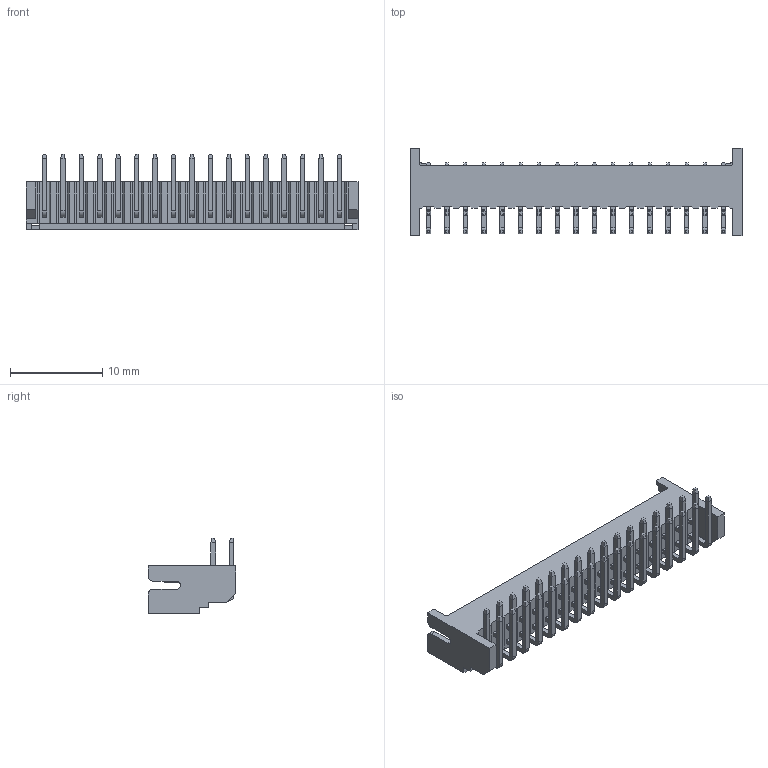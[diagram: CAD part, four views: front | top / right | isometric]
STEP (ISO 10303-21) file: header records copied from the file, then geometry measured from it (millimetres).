
FILE_DESCRIPTION(('CATIA V5 STEP Exchange'),'2;1');
FILE_NAME('F:\黄富鸿\条形连接器\2.00系列\04--PHD\2xNAW\HC-PHD-2x17AW-02（2.00 双排 弯针-HCTL）.stp','2025-12-29T06:05:07+00:00',('none'),('none'),'CATIA Version 5 Release 20 GA (IN-10)','CATIA V5 STEP AP203','none');
FILE_SCHEMA(('CONFIG_CONTROL_DESIGN'));
Length unit declared in the file: millimetre
Products named in the file (1): Part2
Bounding box: 36 x 9.5 x 8.2 mm (x, y, z)
Volume: 469.1 mm3; surface area: 1962.5 mm2
Topology: 35 solids, 35 shells, 890 faces, 2200 edges, 1376 vertices
Faces by surface type: plane 798, cylinder 92
Entity records: 22379 total; most frequent: ORIENTED_EDGE 4400, CARTESIAN_POINT 4164, DIRECTION 2558, EDGE_CURVE 2200, VECTOR 1744, LINE 1744, VERTEX_POINT 1376, EDGE_LOOP 958
